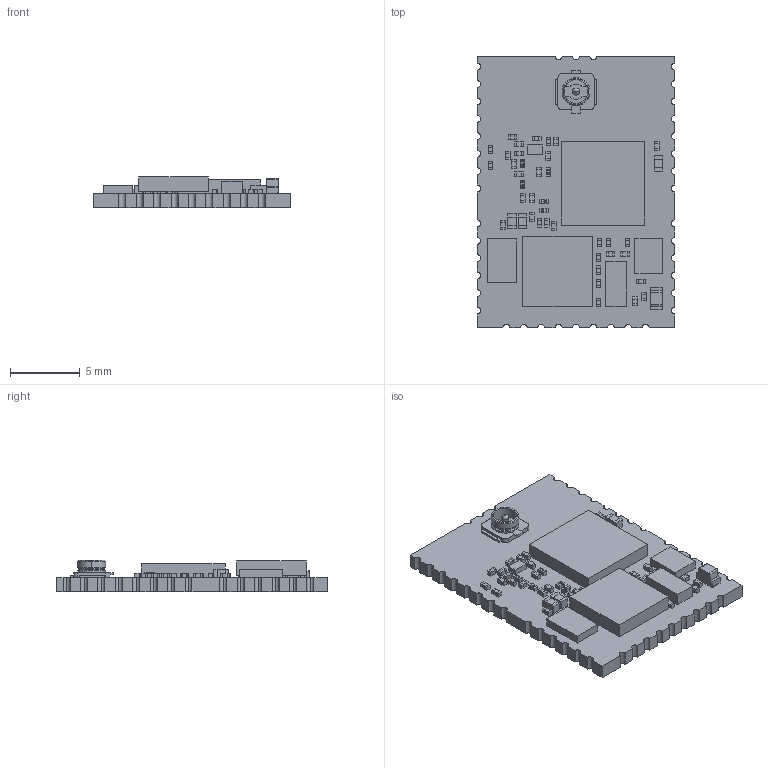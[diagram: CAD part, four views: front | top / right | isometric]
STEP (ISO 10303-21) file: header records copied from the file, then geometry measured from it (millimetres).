
FILE_DESCRIPTION(('Open CASCADE Model'),'2;1');
FILE_NAME('Open CASCADE Shape Model','2019-12-09T15:20:58',('Author'),( 'Open CASCADE'),'Open CASCADE STEP processor 6.8','Open CASCADE 6.8' ,'Unknown');
FILE_SCHEMA(('AUTOMOTIVE_DESIGN { 1 0 10303 214 1 1 1 1 }'));
Length unit declared in the file: millimetre
Products named in the file (84): PCB; Board; Open CASCADE STEP translator 6.8 1.1.1; Open CASCADE STEP translator 6.8 1.1.1.1; J1; U.FL-R-SMT-1; R202; 7818461024; Extruded; 7818461104; 7818449424; R201; D200; AP1608; L103; LQP03TN_06-62; U201; 7818450544; R200; C100; 7818456304; 7818453824; U200; 7818445824; R100; C122; R206; C210; 7818457344; C209; C208; C201; L102; L101; L100; C111; C110; C109; C106; C105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
Assembly tree (187 placements, depth 4):
  PCB
    Board
      Open CASCADE STEP translator 6.8 1.1.1
        Open CASCADE STEP translator 6.8 1.1.1.1
    J1
      U.FL-R-SMT-1
    R202
      7818461024
        Extruded
      7818461104
        Extruded
      7818449424
        Extruded
    R201
      7818461024
        Extruded
      7818461104
        Extruded
      7818449424
        Extruded
    D200
      AP1608
    L103
      LQP03TN_06-62
    U201
      7818450544
        Extruded
    R200
      7818461024
        Extruded
      7818461104
        Extruded
      7818449424
        Extruded
    C100
      7818456304
        Extruded
      7818453824  x2
        Extruded
    U200
      7818445824
        Extruded
    R100
      7818461024
        Extruded
      7818461104
        Extruded
      7818449424
        Extruded
    C122
      7818456304
        Extruded
      7818453824  x2
        Extruded
    R206
      7818461024
        Extruded
      7818461104
        Extruded
      7818449424
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Bounding box: 14.2 x 19.5 x 2.28 mm (x, y, z)
Volume: 360.1 mm3; surface area: 964 mm2
Topology: 146 solids, 146 shells, 1380 faces, 3145 edges, 2091 vertices
Faces by surface type: plane 1169, bspline 116, cylinder 85, cone 8, revolution 2
Entity records: 29260 total; most frequent: CARTESIAN_POINT 9840, ORIENTED_EDGE 3166, DIRECTION 2893, EDGE_CURVE 1583, LINE 1183, VECTOR 1183, VERTEX_POINT 1051, AXIS2_PLACEMENT_3D 854
